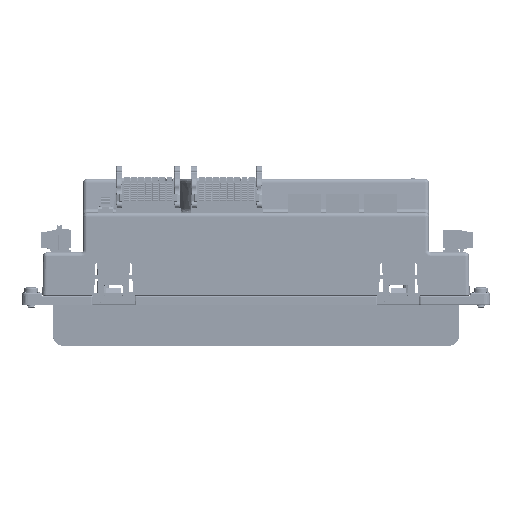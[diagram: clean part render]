
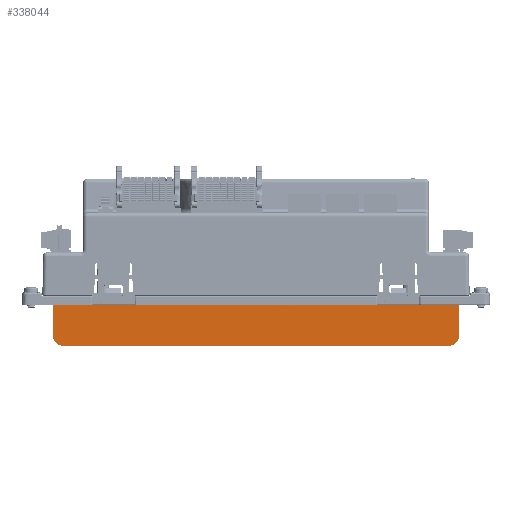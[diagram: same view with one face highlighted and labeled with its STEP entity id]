
A CAD part, front view. The second image highlights one B-rep face of the part: STEP entity #338044.
In plain terms, the highlighted planar face has unit normal (0, -1, -0.018).
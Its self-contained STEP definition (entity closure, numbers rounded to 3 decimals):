
#302330=CARTESIAN_POINT('',(176.074,-243.95,-6.));
#302356=CARTESIAN_POINT('',(110.994,-243.95,-6.));
#302382=CARTESIAN_POINT('',(26.074,-243.95,-6.));
#308314=DIRECTION('',(-1.,0.001,0.));
#308315=VECTOR('',#308314,1.854);
#308316=CARTESIAN_POINT('',(27.928,-243.951,-6.));
#308317=LINE('',#308316,#308315);
#308326=CARTESIAN_POINT('',(201.737,-243.687,
-21.087));
#308327=CARTESIAN_POINT('',(201.729,-243.679,
-21.53));
#308328=CARTESIAN_POINT('',(201.601,-243.664,
-22.379));
#308329=CARTESIAN_POINT('',(201.085,-243.643,
-23.583));
#308330=CARTESIAN_POINT('',(200.281,-243.625,
-24.606));
#308331=CARTESIAN_POINT('',(199.244,-243.612,
-25.391));
#308332=CARTESIAN_POINT('',(198.032,-243.603,
-25.887));
#308333=CARTESIAN_POINT('',(197.18,-243.601,-26.));
#308334=CARTESIAN_POINT('',(196.737,-243.601,-26.));
#308336=DIRECTION('',(-1.,0.,0.));
#308337=VECTOR('',#308336,189.475);
#308338=CARTESIAN_POINT('',(196.737,-243.601,-26.));
#308339=LINE('',#308338,#308337);
#308340=CARTESIAN_POINT('',(7.263,-243.601,-26.));
#308341=CARTESIAN_POINT('',(6.82,-243.601,-26.));
#308342=CARTESIAN_POINT('',(5.968,-243.603,
-25.887));
#308343=CARTESIAN_POINT('',(4.756,-243.612,
-25.392));
#308344=CARTESIAN_POINT('',(3.719,-243.625,
-24.606));
#308345=CARTESIAN_POINT('',(2.915,-243.643,
-23.583));
#308346=CARTESIAN_POINT('',(2.399,-243.664,
-22.379));
#308347=CARTESIAN_POINT('',(2.271,-243.679,
-21.53));
#308348=CARTESIAN_POINT('',(2.263,-243.687,
-21.087));
#308350=DIRECTION('',(-0.017,-0.017,1.));
#308351=VECTOR('',#308350,15.092);
#308352=CARTESIAN_POINT('',(2.263,-243.687,
-21.087));
#308353=LINE('',#308352,#308351);
#308354=DIRECTION('',(1.,0.,0.));
#308355=VECTOR('',#308354,24.074);
#308356=CARTESIAN_POINT('',(2.,-243.95,-6.));
#308357=LINE('',#308356,#308355);
#308358=DIRECTION('',(1.,0.,0.));
#308359=VECTOR('',#308358,83.066);
#308360=CARTESIAN_POINT('',(27.928,-243.951,-6.));
#308361=LINE('',#308360,#308359);
#308362=DIRECTION('',(1.,0.,0.));
#308363=VECTOR('',#308362,63.226);
#308364=CARTESIAN_POINT('',(112.848,-243.951,-6.));
#308365=LINE('',#308364,#308363);
#308366=DIRECTION('',(1.,0.,0.));
#308367=VECTOR('',#308366,24.072);
#308368=CARTESIAN_POINT('',(177.928,-243.951,-6.));
#308369=LINE('',#308368,#308367);
#308378=DIRECTION('',(0.017,-0.017,1.));
#308379=VECTOR('',#308378,15.092);
#308380=CARTESIAN_POINT('',(201.737,-243.687,
-21.087));
#308381=LINE('',#308380,#308379);
#310544=DIRECTION('',(-1.,0.001,0.));
#310545=VECTOR('',#310544,1.854);
#310546=CARTESIAN_POINT('',(112.848,-243.951,-6.));
#310547=LINE('',#310546,#310545);
#310666=DIRECTION('',(-1.,0.001,0.));
#310667=VECTOR('',#310666,1.854);
#310668=CARTESIAN_POINT('',(177.928,-243.951,-6.));
#310669=LINE('',#310668,#310667);
#323511=CARTESIAN_POINT('',(177.928,-243.951,-6.));
#323512=CARTESIAN_POINT('',(202.,-243.95,-6.));
#323513=VERTEX_POINT('',#323511);
#323514=VERTEX_POINT('',#323512);
#323517=VERTEX_POINT('',#302330);
#323518=CARTESIAN_POINT('',(112.848,-243.951,-6.));
#323519=VERTEX_POINT('',#323518);
#323522=VERTEX_POINT('',#302356);
#323523=CARTESIAN_POINT('',(27.928,-243.951,-6.));
#323524=VERTEX_POINT('',#323523);
#323527=VERTEX_POINT('',#302382);
#323528=CARTESIAN_POINT('',(2.,-243.95,-6.));
#323529=VERTEX_POINT('',#323528);
#325061=VERTEX_POINT('',#308326);
#325062=VERTEX_POINT('',#308334);
#325063=CARTESIAN_POINT('',(7.263,-243.601,-26.));
#325064=VERTEX_POINT('',#325063);
#325065=VERTEX_POINT('',#308348);
#338018=CARTESIAN_POINT('',(202.,-243.95,-6.));
#338019=DIRECTION('',(0.,-1.,-0.017));
#338020=DIRECTION('',(-1.,0.,0.));
#338021=AXIS2_PLACEMENT_3D('',#338018,#338019,#338020);
#338022=PLANE('',#338021);
#338024=ORIENTED_EDGE('',*,*,#338023,.T.);
#338026=ORIENTED_EDGE('',*,*,#338025,.T.);
#338028=ORIENTED_EDGE('',*,*,#338027,.T.);
#338030=ORIENTED_EDGE('',*,*,#338029,.T.);
#338031=ORIENTED_EDGE('',*,*,#327437,.T.);
#338032=ORIENTED_EDGE('',*,*,#338012,.F.);
#338033=ORIENTED_EDGE('',*,*,#327429,.T.);
#338035=ORIENTED_EDGE('',*,*,#338034,.F.);
#338036=ORIENTED_EDGE('',*,*,#327421,.T.);
#338038=ORIENTED_EDGE('',*,*,#338037,.F.);
#338039=ORIENTED_EDGE('',*,*,#327413,.T.);
#338041=ORIENTED_EDGE('',*,*,#338040,.F.);
#338042=EDGE_LOOP('',(#338024,#338026,#338028,#338030,#338031,#338032,#338033,
#338035,#338036,#338038,#338039,#338041));
#338043=FACE_OUTER_BOUND('',#338042,.F.);
#338044=ADVANCED_FACE('',(#338043),#338022,.T.);
#308335=B_SPLINE_CURVE_WITH_KNOTS('',3,(#308326,#308327,#308328,#308329,#308330,
#308331,#308332,#308333,#308334),.UNSPECIFIED.,.F.,.F.,(4,1,1,1,1,1,4),(0.,
0.167,0.333,0.5,0.667,0.833,
1.),.UNSPECIFIED.);
#308349=B_SPLINE_CURVE_WITH_KNOTS('',3,(#308340,#308341,#308342,#308343,#308344,
#308345,#308346,#308347,#308348),.UNSPECIFIED.,.F.,.F.,(4,1,1,1,1,1,4),(0.,
0.167,0.333,0.5,0.667,0.833,
1.),.UNSPECIFIED.);
#327413=EDGE_CURVE('',#323513,#323514,#308369,.T.);
#327421=EDGE_CURVE('',#323519,#323517,#308365,.T.);
#327429=EDGE_CURVE('',#323524,#323522,#308361,.T.);
#327437=EDGE_CURVE('',#323529,#323527,#308357,.T.);
#338012=EDGE_CURVE('',#323524,#323527,#308317,.T.);
#338023=EDGE_CURVE('',#325061,#325062,#308335,.T.);
#338025=EDGE_CURVE('',#325062,#325064,#308339,.T.);
#338027=EDGE_CURVE('',#325064,#325065,#308349,.T.);
#338029=EDGE_CURVE('',#325065,#323529,#308353,.T.);
#338034=EDGE_CURVE('',#323519,#323522,#310547,.T.);
#338037=EDGE_CURVE('',#323513,#323517,#310669,.T.);
#338040=EDGE_CURVE('',#325061,#323514,#308381,.T.);
